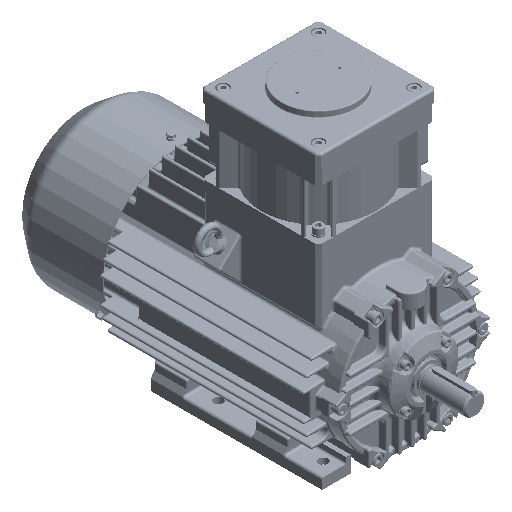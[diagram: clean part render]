
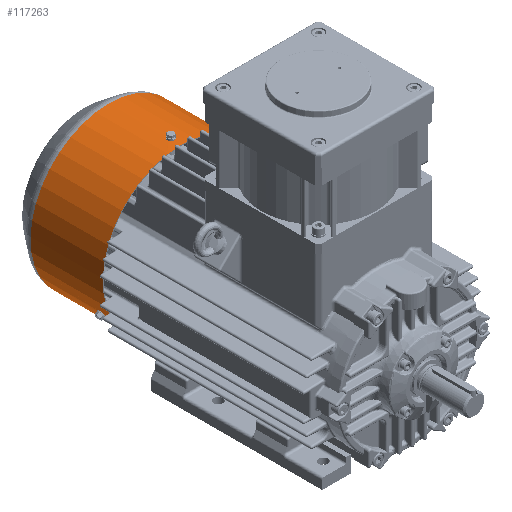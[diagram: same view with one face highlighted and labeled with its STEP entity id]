
A CAD part, isometric view. The second image highlights one B-rep face of the part: STEP entity #117263.
In plain terms, the highlighted cylindrical face has radius 105 mm (diameter 210 mm), a partial arc.
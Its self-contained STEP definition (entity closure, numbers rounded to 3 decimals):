
#8711=LINE('',#196353,#14298);
#8712=LINE('',#196359,#14299);
#14298=VECTOR('',#153589,1000.);
#14299=VECTOR('',#153598,1000.);
#16045=B_SPLINE_CURVE_WITH_KNOTS('',3,(#196273,#196274,#196275,#196276,
#196277,#196278,#196279),.UNSPECIFIED.,.F.,.F.,(4,1,1,1,4),(0.,0.002,
0.004,0.006,0.008),
 .UNSPECIFIED.);
#16046=B_SPLINE_CURVE_WITH_KNOTS('',3,(#196287,#196288,#196289,#196290,
#196291,#196292,#196293),.UNSPECIFIED.,.F.,.F.,(4,1,1,1,4),(0.,
0.002,0.004,0.006,0.008),
 .UNSPECIFIED.);
#16047=B_SPLINE_CURVE_WITH_KNOTS('',3,(#196301,#196302,#196303,#196304,
#196305,#196306,#196307),.UNSPECIFIED.,.F.,.F.,(4,1,1,1,4),(0.,
0.002,0.004,0.006,0.008),
 .UNSPECIFIED.);
#16048=B_SPLINE_CURVE_WITH_KNOTS('',3,(#196315,#196316,#196317,#196318,
#196319,#196320,#196321),.UNSPECIFIED.,.F.,.F.,(4,1,1,1,4),(0.,
0.002,0.004,0.006,0.008),
 .UNSPECIFIED.);
#16049=B_SPLINE_CURVE_WITH_KNOTS('',3,(#196327,#196328,#196329,#196330,
#196331,#196332,#196333),.UNSPECIFIED.,.F.,.F.,(4,1,1,1,4),(0.,0.002,
0.004,0.006,0.008),
 .UNSPECIFIED.);
#16050=B_SPLINE_CURVE_WITH_KNOTS('',3,(#196339,#196340,#196341,#196342,
#196343,#196344,#196345),.UNSPECIFIED.,.F.,.F.,(4,1,1,1,4),(0.,0.002,
0.004,0.006,0.008),
 .UNSPECIFIED.);
#18054=CYLINDRICAL_SURFACE('',#127539,105.);
#43525=ORIENTED_EDGE('',*,*,#56272,.T.);
#43526=ORIENTED_EDGE('',*,*,#56277,.T.);
#43527=ORIENTED_EDGE('',*,*,#56275,.T.);
#43528=ORIENTED_EDGE('',*,*,#56274,.T.);
#43529=ORIENTED_EDGE('',*,*,#56265,.T.);
#43530=ORIENTED_EDGE('',*,*,#56263,.T.);
#43531=ORIENTED_EDGE('',*,*,#56269,.T.);
#43532=ORIENTED_EDGE('',*,*,#56267,.T.);
#43533=ORIENTED_EDGE('',*,*,#56257,.T.);
#43534=ORIENTED_EDGE('',*,*,#56256,.T.);
#43535=ORIENTED_EDGE('',*,*,#56261,.T.);
#43536=ORIENTED_EDGE('',*,*,#56260,.T.);
#43537=ORIENTED_EDGE('',*,*,#56283,.T.);
#43538=ORIENTED_EDGE('',*,*,#56282,.T.);
#43539=ORIENTED_EDGE('',*,*,#56280,.F.);
#43540=ORIENTED_EDGE('',*,*,#56279,.T.);
#56256=EDGE_CURVE('',#64463,#64464,#69615,.T.);
#56257=EDGE_CURVE('',#64465,#64463,#16045,.T.);
#56260=EDGE_CURVE('',#64466,#64465,#69616,.T.);
#56261=EDGE_CURVE('',#64464,#64466,#16046,.T.);
#56263=EDGE_CURVE('',#64468,#64467,#69617,.T.);
#56265=EDGE_CURVE('',#64469,#64468,#16047,.T.);
#56267=EDGE_CURVE('',#64470,#64469,#69618,.T.);
#56269=EDGE_CURVE('',#64467,#64470,#16048,.T.);
#56272=EDGE_CURVE('',#64471,#64472,#16049,.T.);
#56274=EDGE_CURVE('',#64473,#64471,#69619,.T.);
#56275=EDGE_CURVE('',#64474,#64473,#16050,.T.);
#56277=EDGE_CURVE('',#64472,#64474,#69620,.T.);
#56279=EDGE_CURVE('',#64475,#64449,#8711,.T.);
#56280=EDGE_CURVE('',#64475,#64476,#69622,.T.);
#56282=EDGE_CURVE('',#64450,#64476,#8712,.T.);
#56283=EDGE_CURVE('',#64449,#64450,#69624,.T.);
#64449=VERTEX_POINT('',#196196);
#64450=VERTEX_POINT('',#196200);
#64463=VERTEX_POINT('',#196268);
#64464=VERTEX_POINT('',#196270);
#64465=VERTEX_POINT('',#196280);
#64466=VERTEX_POINT('',#196284);
#64467=VERTEX_POINT('',#196296);
#64468=VERTEX_POINT('',#196298);
#64469=VERTEX_POINT('',#196308);
#64470=VERTEX_POINT('',#196312);
#64471=VERTEX_POINT('',#196324);
#64472=VERTEX_POINT('',#196326);
#64473=VERTEX_POINT('',#196336);
#64474=VERTEX_POINT('',#196346);
#64475=VERTEX_POINT('',#196352);
#64476=VERTEX_POINT('',#196356);
#69615=CIRCLE('',#127514,105.);
#69616=CIRCLE('',#127517,105.);
#69617=CIRCLE('',#127520,105.);
#69618=CIRCLE('',#127523,105.);
#69619=CIRCLE('',#127527,105.);
#69620=CIRCLE('',#127530,105.);
#69622=CIRCLE('',#127534,105.);
#69624=CIRCLE('',#127538,105.);
#75928=EDGE_LOOP('',(#43525,#43526,#43527,#43528));
#75929=EDGE_LOOP('',(#43529,#43530,#43531,#43532));
#75930=EDGE_LOOP('',(#43533,#43534,#43535,#43536));
#75931=EDGE_LOOP('',(#43537,#43538,#43539,#43540));
#82272=FACE_BOUND('',#75928,.T.);
#82273=FACE_BOUND('',#75929,.T.);
#82274=FACE_BOUND('',#75930,.T.);
#82275=FACE_BOUND('',#75931,.T.);
#117263=ADVANCED_FACE('',(#82272,#82273,#82274,#82275),#18054,.T.);
#127514=AXIS2_PLACEMENT_3D('',#196271,#153541,#153542);
#127517=AXIS2_PLACEMENT_3D('',#196285,#153549,#153550);
#127520=AXIS2_PLACEMENT_3D('',#196297,#153556,#153557);
#127523=AXIS2_PLACEMENT_3D('',#196311,#153564,#153565);
#127527=AXIS2_PLACEMENT_3D('',#196337,#153576,#153577);
#127530=AXIS2_PLACEMENT_3D('',#196349,#153583,#153584);
#127534=AXIS2_PLACEMENT_3D('',#196355,#153592,#153593);
#127538=AXIS2_PLACEMENT_3D('',#196361,#153601,#153602);
#127539=AXIS2_PLACEMENT_3D('',#196362,#153603,#153604);
#153541=DIRECTION('',(0.,-1.,0.));
#153542=DIRECTION('',(-1.,0.,0.));
#153549=DIRECTION('',(0.,1.,0.));
#153550=DIRECTION('',(1.,0.,0.));
#153556=DIRECTION('',(0.,-1.,0.));
#153557=DIRECTION('',(-1.,0.,0.));
#153564=DIRECTION('',(0.,1.,0.));
#153565=DIRECTION('',(1.,0.,0.));
#153576=DIRECTION('',(0.,1.,0.));
#153577=DIRECTION('',(1.,0.,0.));
#153583=DIRECTION('',(0.,-1.,0.));
#153584=DIRECTION('',(-1.,0.,0.));
#153589=DIRECTION('',(0.,1.,0.));
#153592=DIRECTION('',(0.,-1.,0.));
#153593=DIRECTION('',(1.,0.,0.));
#153598=DIRECTION('',(0.,-1.,0.));
#153601=DIRECTION('',(0.,-1.,0.));
#153602=DIRECTION('',(-1.,0.,0.));
#153603=DIRECTION('',(0.,-1.,0.));
#153604=DIRECTION('',(1.,0.,0.));
#196196=CARTESIAN_POINT('',(40.599,391.396,-96.833));
#196200=CARTESIAN_POINT('',(-40.599,391.396,-96.833));
#196268=CARTESIAN_POINT('',(1.,307.4,104.995));
#196270=CARTESIAN_POINT('',(-1.,307.4,104.995));
#196271=CARTESIAN_POINT('',(0.,307.4,0.));
#196273=CARTESIAN_POINT('',(1.,312.6,104.995));
#196274=CARTESIAN_POINT('',(1.687,312.6,104.989));
#196275=CARTESIAN_POINT('',(3.034,312.037,104.96));
#196276=CARTESIAN_POINT('',(3.883,310.002,104.928));
#196277=CARTESIAN_POINT('',(3.036,307.964,104.96));
#196278=CARTESIAN_POINT('',(1.687,307.4,104.989));
#196279=CARTESIAN_POINT('',(1.,307.4,104.995));
#196280=CARTESIAN_POINT('',(1.,312.6,104.995));
#196284=CARTESIAN_POINT('',(-1.,312.6,104.995));
#196285=CARTESIAN_POINT('',(0.,312.6,0.));
#196287=CARTESIAN_POINT('',(-1.,307.4,104.995));
#196288=CARTESIAN_POINT('',(-1.687,307.4,104.989));
#196289=CARTESIAN_POINT('',(-3.032,307.961,104.96));
#196290=CARTESIAN_POINT('',(-3.883,310.001,104.928));
#196291=CARTESIAN_POINT('',(-3.035,312.036,104.96));
#196292=CARTESIAN_POINT('',(-1.687,312.6,104.989));
#196293=CARTESIAN_POINT('',(-1.,312.6,104.995));
#196296=CARTESIAN_POINT('',(-90.429,307.4,-53.364));
#196297=CARTESIAN_POINT('',(0.,307.4,0.));
#196298=CARTESIAN_POINT('',(-91.429,307.4,-51.632));
#196301=CARTESIAN_POINT('',(-91.429,312.6,-51.632));
#196302=CARTESIAN_POINT('',(-91.766,312.6,-51.033));
#196303=CARTESIAN_POINT('',(-92.415,312.037,-49.853));
#196304=CARTESIAN_POINT('',(-92.811,310.002,-49.101));
#196305=CARTESIAN_POINT('',(-92.416,307.964,-49.851));
#196306=CARTESIAN_POINT('',(-91.766,307.4,-51.033));
#196307=CARTESIAN_POINT('',(-91.429,307.4,-51.632));
#196308=CARTESIAN_POINT('',(-91.429,312.6,-51.632));
#196311=CARTESIAN_POINT('',(0.,312.6,0.));
#196312=CARTESIAN_POINT('',(-90.429,312.6,-53.364));
#196315=CARTESIAN_POINT('',(-90.429,307.4,-53.364));
#196316=CARTESIAN_POINT('',(-90.08,307.4,-53.955));
#196317=CARTESIAN_POINT('',(-89.382,307.961,-55.106));
#196318=CARTESIAN_POINT('',(-88.928,310.001,-55.827));
#196319=CARTESIAN_POINT('',(-89.38,312.036,-55.108));
#196320=CARTESIAN_POINT('',(-90.08,312.6,-53.955));
#196321=CARTESIAN_POINT('',(-90.429,312.6,-53.364));
#196324=CARTESIAN_POINT('',(90.429,312.6,-53.364));
#196326=CARTESIAN_POINT('',(90.429,307.4,-53.364));
#196327=CARTESIAN_POINT('',(90.429,312.6,-53.364));
#196328=CARTESIAN_POINT('',(90.079,312.6,-53.955));
#196329=CARTESIAN_POINT('',(89.381,312.037,-55.107));
#196330=CARTESIAN_POINT('',(88.929,310.002,-55.826));
#196331=CARTESIAN_POINT('',(89.38,307.964,-55.109));
#196332=CARTESIAN_POINT('',(90.079,307.4,-53.955));
#196333=CARTESIAN_POINT('',(90.429,307.4,-53.364));
#196336=CARTESIAN_POINT('',(91.429,312.6,-51.632));
#196337=CARTESIAN_POINT('',(0.,312.6,0.));
#196339=CARTESIAN_POINT('',(91.429,307.4,-51.632));
#196340=CARTESIAN_POINT('',(91.766,307.4,-51.034));
#196341=CARTESIAN_POINT('',(92.414,307.961,-49.854));
#196342=CARTESIAN_POINT('',(92.812,310.001,-49.101));
#196343=CARTESIAN_POINT('',(92.415,312.036,-49.852));
#196344=CARTESIAN_POINT('',(91.766,312.6,-51.034));
#196345=CARTESIAN_POINT('',(91.429,312.6,-51.632));
#196346=CARTESIAN_POINT('',(91.429,307.4,-51.632));
#196349=CARTESIAN_POINT('',(0.,307.4,0.));
#196352=CARTESIAN_POINT('',(40.599,295.,-96.833));
#196353=CARTESIAN_POINT('',(40.599,287.119,-96.833));
#196355=CARTESIAN_POINT('',(0.,295.,0.));
#196356=CARTESIAN_POINT('',(-40.599,295.,-96.833));
#196359=CARTESIAN_POINT('',(-40.599,287.119,-96.833));
#196361=CARTESIAN_POINT('',(0.,391.396,0.));
#196362=CARTESIAN_POINT('',(0.,287.119,0.));
